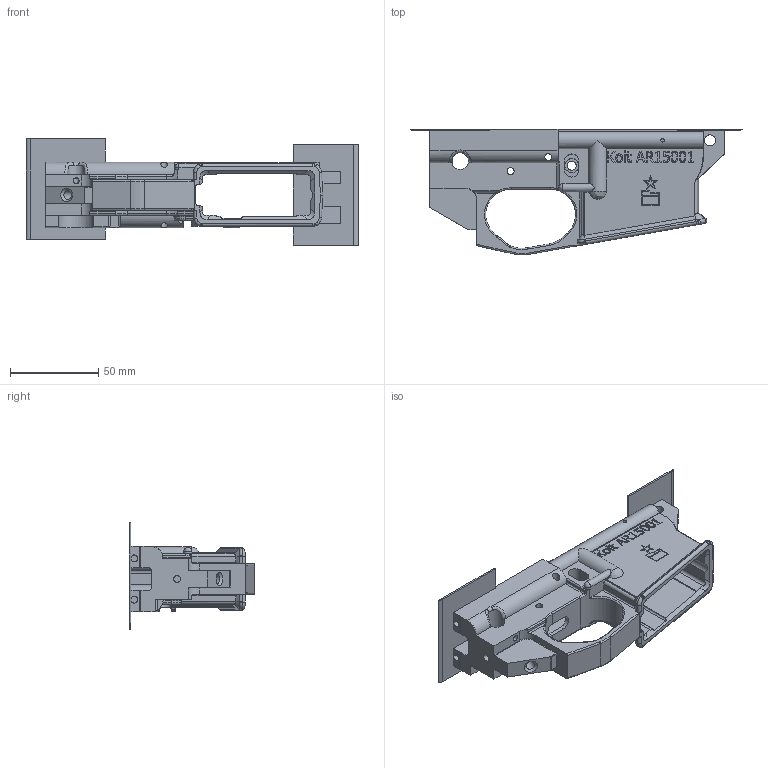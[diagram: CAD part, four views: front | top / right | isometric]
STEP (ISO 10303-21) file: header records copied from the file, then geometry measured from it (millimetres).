
FILE_DESCRIPTION(/* description */ (' '),/* implementation_level */ '2;1');
FILE_NAME(/* name */ 'D:\Downloads\AR15000-IvanTheTroll (1)\STEP\Lower Body.stp',/* time_stamp */ '2019-10-14T19:26:38-05:00',/* author */ ('johne'),/* organization */ (' '),/* preprocessor_version */ 'ST-DEVELOPER v18',/* originating_system */ 'Autodesk Inventor 2020',/* authorisation */ ' ');
FILE_SCHEMA (('AUTOMOTIVE_DESIGN { 1 0 10303 214 3 1 1 }'));
Length unit declared in the file: inch
Products named in the file (1): Lower Body
Bounding box: 188.05 x 71.27 x 60.34 mm (x, y, z)
Volume: 105210.8 mm3; surface area: 57273.5 mm2
Topology: 1 solids, 1 shells, 1149 faces, 3147 edges, 2060 vertices
Faces by surface type: plane 678, bspline 248, cylinder 176, torus 37, sphere 7, cone 3
Full cylindrical faces by diameter (mm): 1.981 x1, 2.362 x2, 2.464 x1, 3.175 x1, 3.937 x1, 3.969 x5, 5.105 x1, 5.182 x1, 6.375 x2, 7.938 x1, 9.525 x2
Entity records: 43330 total; most frequent: CARTESIAN_POINT 15608, ORIENTED_EDGE 6278, DIRECTION 4793, EDGE_CURVE 3139, LINE 2171, VECTOR 2171, VERTEX_POINT 2060, AXIS2_PLACEMENT_3D 1311
